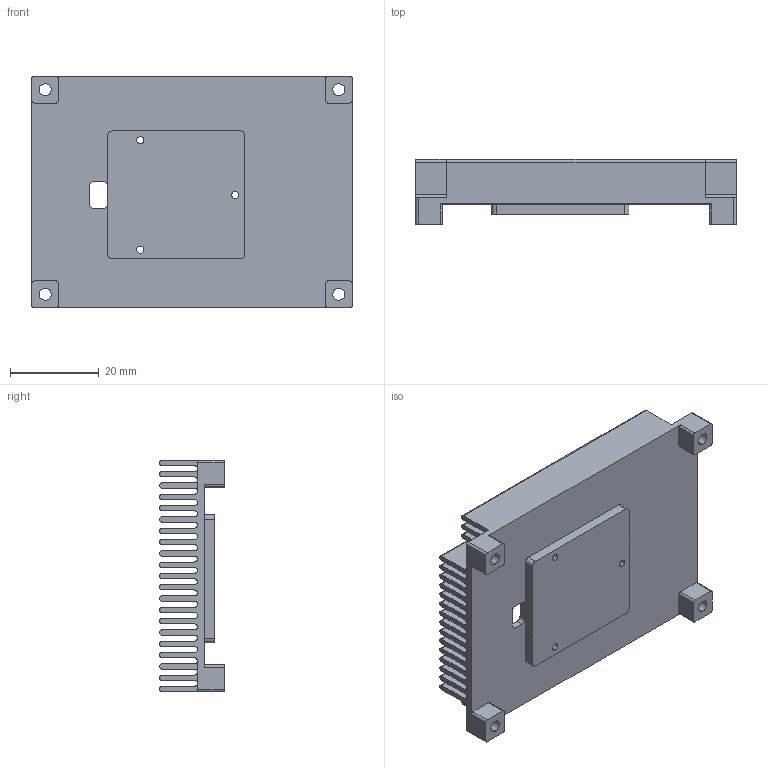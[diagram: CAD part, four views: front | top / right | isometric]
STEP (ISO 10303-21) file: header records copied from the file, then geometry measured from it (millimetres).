
FILE_DESCRIPTION (( 'STEP AP214' ), '1' );
FILE_NAME ('ﾂｳｰ狹ｨ5ｺﾋﾐﾄｰ衙｢ﾈﾈﾆｬ-20241216.STEP', '2024-12-16T03:13:02', ( '' ), ( '' ), 'SwSTEP 2.0', 'SolidWorks 2023', '' );
FILE_SCHEMA (( 'AUTOMOTIVE_DESIGN' ));
Length unit declared in the file: millimetre
Products named in the file (1): 鲁班猫5核心板散热片-20241216
Bounding box: 72 x 14.55 x 52 mm (x, y, z)
Volume: 17456.6 mm3; surface area: 24181.4 mm2
Topology: 1 solids, 1 shells, 345 faces, 938 edges, 596 vertices
Faces by surface type: cylinder 223, plane 120, torus 2
Entity records: 11549 total; most frequent: CARTESIAN_POINT 2820, ORIENTED_EDGE 1876, DIRECTION 1788, EDGE_CURVE 938, AXIS2_PLACEMENT_3D 636, VERTEX_POINT 596, VECTOR 516, LINE 516
